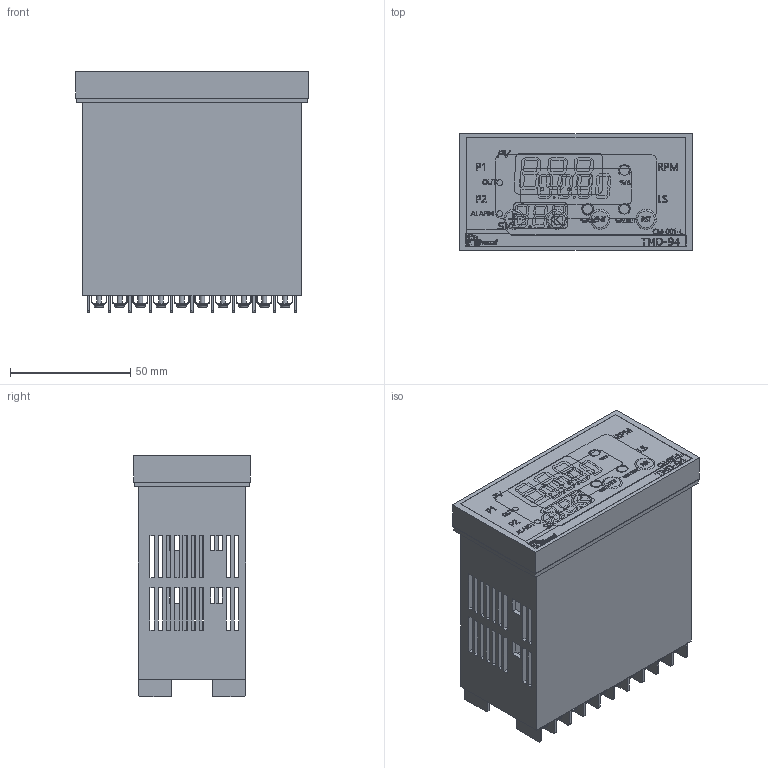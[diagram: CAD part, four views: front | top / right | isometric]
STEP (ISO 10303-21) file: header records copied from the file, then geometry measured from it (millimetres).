
FILE_DESCRIPTION (( 'STEP AP214' ), '1' );
FILE_NAME ('CM-001-L.STEP', '2026-05-19T11:53:06', ( '' ), ( '' ), 'SwSTEP 2.0', 'SolidWorks 2022', '' );
FILE_SCHEMA (( 'AUTOMOTIVE_DESIGN' ));
Length unit declared in the file: millimetre
Products named in the file (1): CM-001-L
Bounding box: 96.6 x 48.5 x 100.55 mm (x, y, z)
Volume: 70002.1 mm3; surface area: 81732.4 mm2
Topology: 85 solids, 148 shells, 3437 faces, 8692 edges, 5737 vertices
Faces by surface type: plane 2449, cylinder 534, bspline 306, torus 88, cone 60
Entity records: 155765 total; most frequent: CARTESIAN_POINT 34865, ORIENTED_EDGE 17384, DIRECTION 15628, EDGE_CURVE 8692, VECTOR 6756, LINE 6756, VERTEX_POINT 5737, AXIS2_PLACEMENT_3D 4436
